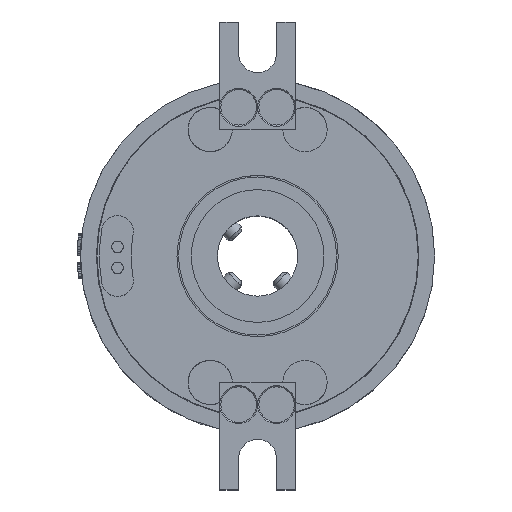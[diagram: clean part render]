
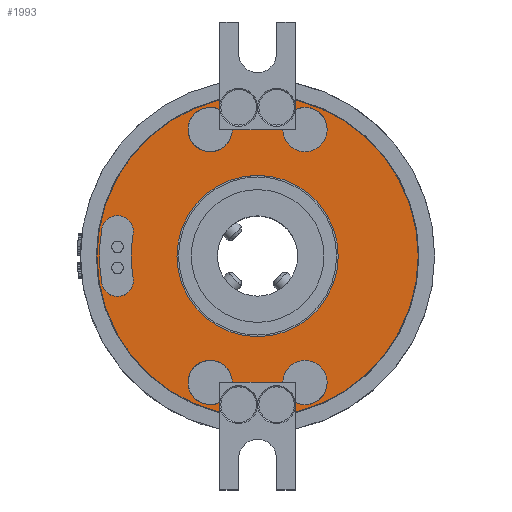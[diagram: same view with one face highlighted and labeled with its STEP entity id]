
A CAD part, top view. The second image highlights one B-rep face of the part: STEP entity #1993.
In plain terms, the highlighted planar face has unit normal (0, 0, 1).
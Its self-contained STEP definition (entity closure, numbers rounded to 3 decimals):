
#288=FACE_BOUND('',#5055,.T.);
#289=FACE_BOUND('',#5056,.T.);
#290=FACE_BOUND('',#5057,.T.);
#541=CIRCLE('',#16993,3.5);
#542=CIRCLE('',#16995,12.75);
#544=CIRCLE('',#16998,20.);
#546=CIRCLE('',#17001,2.5);
#548=CIRCLE('',#17004,25.);
#550=CIRCLE('',#17007,2.5);
#552=CIRCLE('',#17010,25.4);
#553=CIRCLE('',#17011,25.4);
#555=CIRCLE('',#17014,3.5);
#557=CIRCLE('',#17017,3.5);
#559=CIRCLE('',#17020,3.5);
#968=PLANE('',#17022);
#1221=LINE('',#33350,#3275);
#1225=LINE('',#33358,#3279);
#1229=LINE('',#33366,#3283);
#1253=LINE('',#33435,#3307);
#1257=LINE('',#33443,#3311);
#1261=LINE('',#33451,#3315);
#1993=ADVANCED_FACE('',(#288,#289,#290),#968,.T.);
#3275=VECTOR('',#18687,1.);
#3279=VECTOR('',#18693,1.);
#3283=VECTOR('',#18699,1.);
#3307=VECTOR('',#18771,1.);
#3311=VECTOR('',#18777,1.);
#3315=VECTOR('',#18783,1.);
#5055=EDGE_LOOP('',(#8105,#8106,#8107,#8108,#8109,#8110,#8111,#8112,#8113,
#8114,#8115,#8116));
#5056=EDGE_LOOP('',(#8117));
#5057=EDGE_LOOP('',(#8118,#8119,#8120,#8121));
#8105=ORIENTED_EDGE('',*,*,#13645,.F.);
#8106=ORIENTED_EDGE('',*,*,#13730,.F.);
#8107=ORIENTED_EDGE('',*,*,#13641,.F.);
#8108=ORIENTED_EDGE('',*,*,#13725,.T.);
#8109=ORIENTED_EDGE('',*,*,#13692,.F.);
#8110=ORIENTED_EDGE('',*,*,#13732,.F.);
#8111=ORIENTED_EDGE('',*,*,#13688,.F.);
#8112=ORIENTED_EDGE('',*,*,#13728,.T.);
#8113=ORIENTED_EDGE('',*,*,#13684,.F.);
#8114=ORIENTED_EDGE('',*,*,#13726,.T.);
#8115=ORIENTED_EDGE('',*,*,#13649,.F.);
#8116=ORIENTED_EDGE('',*,*,#13710,.F.);
#8117=ORIENTED_EDGE('',*,*,#13711,.F.);
#8118=ORIENTED_EDGE('',*,*,#13714,.F.);
#8119=ORIENTED_EDGE('',*,*,#13718,.F.);
#8120=ORIENTED_EDGE('',*,*,#13721,.F.);
#8121=ORIENTED_EDGE('',*,*,#13723,.F.);
#11401=VERTEX_POINT('',#33293);
#11403=VERTEX_POINT('',#33297);
#11405=VERTEX_POINT('',#33302);
#11407=VERTEX_POINT('',#33306);
#11424=VERTEX_POINT('',#33351);
#11426=VERTEX_POINT('',#33357);
#11427=VERTEX_POINT('',#33359);
#11429=VERTEX_POINT('',#33365);
#11451=VERTEX_POINT('',#33436);
#11453=VERTEX_POINT('',#33442);
#11454=VERTEX_POINT('',#33444);
#11456=VERTEX_POINT('',#33450);
#11465=VERTEX_POINT('',#33492);
#11468=VERTEX_POINT('',#33501);
#11469=VERTEX_POINT('',#33503);
#11471=VERTEX_POINT('',#33509);
#11473=VERTEX_POINT('',#33518);
#13641=EDGE_CURVE('',#11401,#11424,#1221,.T.);
#13645=EDGE_CURVE('',#11426,#11427,#1225,.T.);
#13649=EDGE_CURVE('',#11429,#11403,#1229,.T.);
#13684=EDGE_CURVE('',#11405,#11451,#1253,.T.);
#13688=EDGE_CURVE('',#11453,#11454,#1257,.T.);
#13692=EDGE_CURVE('',#11456,#11407,#1261,.T.);
#13710=EDGE_CURVE('',#11427,#11429,#541,.T.);
#13711=EDGE_CURVE('',#11465,#11465,#542,.T.);
#13714=EDGE_CURVE('',#11468,#11469,#544,.T.);
#13718=EDGE_CURVE('',#11471,#11468,#546,.T.);
#13721=EDGE_CURVE('',#11473,#11471,#548,.T.);
#13723=EDGE_CURVE('',#11469,#11473,#550,.T.);
#13725=EDGE_CURVE('',#11401,#11407,#552,.T.);
#13726=EDGE_CURVE('',#11405,#11403,#553,.T.);
#13728=EDGE_CURVE('',#11453,#11451,#555,.T.);
#13730=EDGE_CURVE('',#11424,#11426,#557,.T.);
#13732=EDGE_CURVE('',#11454,#11456,#559,.T.);
#16993=AXIS2_PLACEMENT_3D('',#33489,#18831,#18832);
#16995=AXIS2_PLACEMENT_3D('',#33491,#18835,#18836);
#16998=AXIS2_PLACEMENT_3D('',#33502,#18841,#18842);
#17001=AXIS2_PLACEMENT_3D('',#33510,#18849,#18850);
#17004=AXIS2_PLACEMENT_3D('',#33519,#18855,#18856);
#17007=AXIS2_PLACEMENT_3D('',#33522,#18861,#18862);
#17010=AXIS2_PLACEMENT_3D('',#33526,#18867,#18868);
#17011=AXIS2_PLACEMENT_3D('',#33527,#18869,#18870);
#17014=AXIS2_PLACEMENT_3D('',#33531,#18875,#18876);
#17017=AXIS2_PLACEMENT_3D('',#33535,#18881,#18882);
#17020=AXIS2_PLACEMENT_3D('',#33539,#18887,#18888);
#17022=AXIS2_PLACEMENT_3D('',#33541,#18891,#18892);
#18687=DIRECTION('',(0.,1.,0.));
#18693=DIRECTION('',(-1.,0.,0.));
#18699=DIRECTION('',(0.,-1.,0.));
#18771=DIRECTION('',(0.,-1.,0.));
#18777=DIRECTION('',(1.,0.,0.));
#18783=DIRECTION('',(0.,1.,0.));
#18831=DIRECTION('',(0.,0.,1.));
#18832=DIRECTION('',(1.,0.,0.));
#18835=DIRECTION('',(0.,0.,1.));
#18836=DIRECTION('',(1.,0.,0.));
#18841=DIRECTION('',(0.,0.,-1.));
#18842=DIRECTION('',(1.,0.,0.));
#18849=DIRECTION('',(0.,0.,1.));
#18850=DIRECTION('',(1.,0.,0.));
#18855=DIRECTION('',(0.,0.,1.));
#18856=DIRECTION('',(1.,0.,0.));
#18861=DIRECTION('',(0.,0.,1.));
#18862=DIRECTION('',(1.,0.,0.));
#18867=DIRECTION('',(0.,0.,1.));
#18868=DIRECTION('',(1.,0.,0.));
#18869=DIRECTION('',(0.,0.,1.));
#18870=DIRECTION('',(1.,0.,0.));
#18875=DIRECTION('',(0.,0.,-1.));
#18876=DIRECTION('',(1.,0.,0.));
#18881=DIRECTION('',(0.,0.,1.));
#18882=DIRECTION('',(1.,0.,0.));
#18887=DIRECTION('',(0.,0.,1.));
#18888=DIRECTION('',(1.,0.,0.));
#18891=DIRECTION('',(0.,0.,1.));
#18892=DIRECTION('',(1.,0.,0.));
#33293=CARTESIAN_POINT('',(6.,-24.681,34.));
#33297=CARTESIAN_POINT('',(-6.,-24.681,34.));
#33302=CARTESIAN_POINT('',(-6.,24.681,34.));
#33306=CARTESIAN_POINT('',(6.,24.681,34.));
#33350=CARTESIAN_POINT('',(6.,-37.,34.));
#33351=CARTESIAN_POINT('',(6.,-23.162,34.));
#33357=CARTESIAN_POINT('',(4.,-20.,34.));
#33358=CARTESIAN_POINT('',(0.,-20.,34.));
#33359=CARTESIAN_POINT('',(-4.,-20.,34.));
#33365=CARTESIAN_POINT('',(-6.,-23.162,34.));
#33366=CARTESIAN_POINT('',(-6.,-20.,34.));
#33435=CARTESIAN_POINT('',(-6.,37.,34.));
#33436=CARTESIAN_POINT('',(-6.,23.162,34.));
#33442=CARTESIAN_POINT('',(-4.,20.,34.));
#33443=CARTESIAN_POINT('',(0.,20.,34.));
#33444=CARTESIAN_POINT('',(4.,20.,34.));
#33450=CARTESIAN_POINT('',(6.,23.162,34.));
#33451=CARTESIAN_POINT('',(6.,20.,34.));
#33489=CARTESIAN_POINT('',(-7.5,-20.,34.));
#33491=CARTESIAN_POINT('',(0.,0.,
34.));
#33492=CARTESIAN_POINT('',(12.75,0.,34.));
#33501=CARTESIAN_POINT('',(-19.696,-3.473,34.));
#33502=CARTESIAN_POINT('',(0.,0.002,34.));
#33503=CARTESIAN_POINT('',(-19.696,3.473,34.));
#33509=CARTESIAN_POINT('',(-24.62,-4.341,34.));
#33510=CARTESIAN_POINT('',(-22.158,-3.907,34.));
#33518=CARTESIAN_POINT('',(-24.621,4.341,34.));
#33519=CARTESIAN_POINT('',(0.,0.002,34.));
#33522=CARTESIAN_POINT('',(-22.158,3.907,34.));
#33526=CARTESIAN_POINT('',(0.,0.,
34.));
#33527=CARTESIAN_POINT('',(0.,0.,
34.));
#33531=CARTESIAN_POINT('',(-7.5,20.,34.));
#33535=CARTESIAN_POINT('',(7.5,-20.,34.));
#33539=CARTESIAN_POINT('',(7.5,20.,34.));
#33541=CARTESIAN_POINT('',(0.,0.,
34.));
